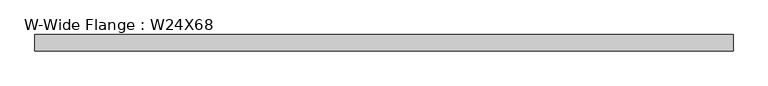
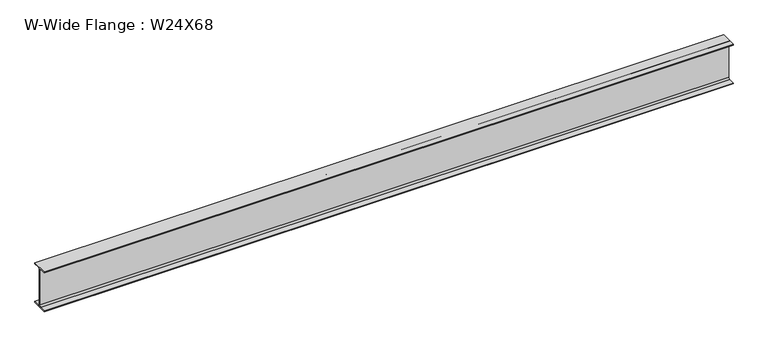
"""IFC4 building model written with IfcOpenShell, lengths in millimetres: beam geometry, W-Wide Flange : W24X68."""

from ifc_helpers import new_model, si_unit, point, frame, frame_2d, origin, place, context, project, spatial, polyline, circle_curve, trimmed, segment, composite_curve, outline, extrude, source, transform, mapped, element, save


def w_wide_flange_w24x68_f968653a(model_context):
    return source(origin(), model_context, "Body", "SweptSolid", [
        extrude(outline(composite_curve([segment(polyline([(113.919, -286.131), (113.919, -300.99), (-113.919, -300.99), (-113.919, -286.131), (-28.5115, -286.131)]), True, "CONTINUOUS"), segment(trimmed(circle_curve(frame_2d((-28.5115, -262.89)), 23.241), [point((-28.5115, -286.131))], [point((-5.2705, -262.89))], True, "CARTESIAN"), True, "CONTINUOUS"), segment(polyline([(-5.2705, -262.89), (-5.2705, 262.89)]), True, "CONTINUOUS"), segment(trimmed(circle_curve(frame_2d((-28.5115, 262.89)), 23.241), [point((-5.2705, 262.89))], [point((-28.5115, 286.131))], True, "CARTESIAN"), True, "CONTINUOUS"), segment(polyline([(-28.5115, 286.131), (-113.919, 286.131), (-113.919, 300.99), (113.919, 300.99), (113.919, 286.131), (28.5115, 286.131)]), True, "CONTINUOUS"), segment(trimmed(circle_curve(frame_2d((28.5115, 262.89)), 23.241), [point((28.5115, 286.131))], [point((5.2705, 262.89))], True, "CARTESIAN"), True, "CONTINUOUS"), segment(polyline([(5.2705, 262.89), (5.2705, -262.89)]), True, "CONTINUOUS"), segment(trimmed(circle_curve(frame_2d((28.5115, -262.89)), 23.241), [point((5.2705, -262.89))], [point((28.5115, -286.131))], True, "CARTESIAN"), True, "CONTINUOUS"), segment(polyline([(28.5115, -286.131), (113.919, -286.131)]), True, "CONTINUOUS")], self_intersect=False)), frame((-4911.4333589, 0.0, 0.0), z_axis=(1.0, 0.0, 0.0), x_axis=(0.0, 1.0, 0.0)), (0.0, 0.0, 1.0), 9827.26),
    ])


if __name__ == "__main__":
    model = new_model("IFC4")
    model_context = context("Model", 3, world=origin())
    ifc_project = project(units=[si_unit("LENGTHUNIT", "METRE", prefix="MILLI")], contexts=[model_context])
    site = spatial("IfcSite", under=ifc_project)
    building = spatial("IfcBuilding", under=site)
    placement = place(None, origin())
    w_wide_flange_w24x68_shape = w_wide_flange_w24x68_f968653a(model_context)
    element("IfcBeam", 1, ObjectType="W-Wide Flange : W24X68", at=placement, inside=building, context=model_context, shape_type="MappedRepresentation", body=[
        mapped(w_wide_flange_w24x68_shape, transform((0.0, 0.0, 0.0), x_axis=(1.0, 0.0, 0.0), y_axis=(0.0, 1.0, 0.0), z_axis=(0.0, 0.0, 1.0))),
    ])
    save(model, "model.ifc")
